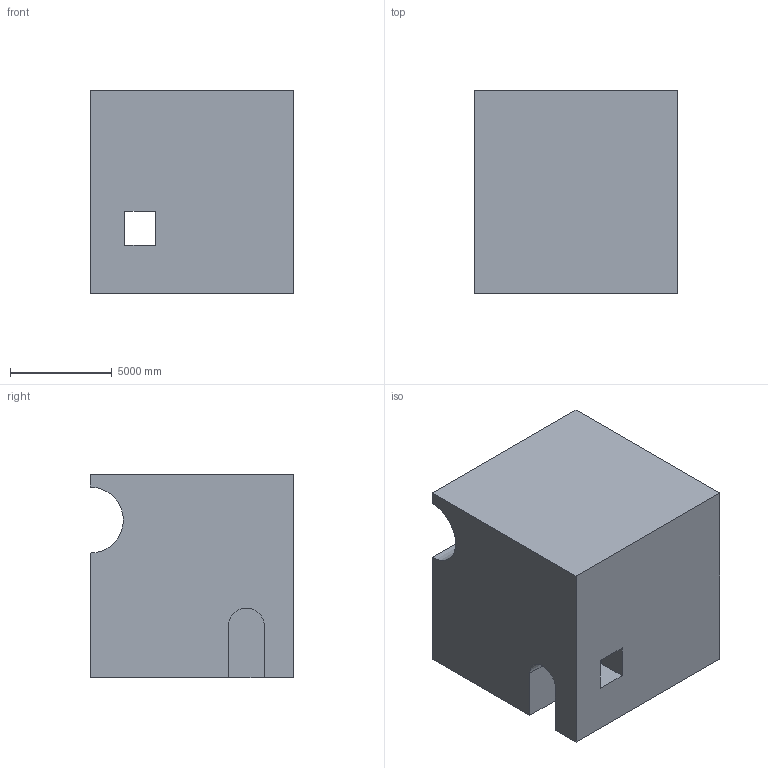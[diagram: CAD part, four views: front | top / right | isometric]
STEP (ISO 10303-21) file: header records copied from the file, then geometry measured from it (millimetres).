
FILE_DESCRIPTION (( 'STEP AP203' ), '1' );
FILE_NAME ('252.STEP', '2022-07-28T14:06:30', ( 'user' ), ( '' ), 'SwSTEP 2.0', 'SolidWorks 2021', '' );
FILE_SCHEMA (( 'CONFIG_CONTROL_DESIGN' ));
Length unit declared in the file: centimetre
Products named in the file (1): 252
Bounding box: 10000 x 10000 x 10000 mm (x, y, z)
Volume: 906040316715.9 mm3; surface area: 689958735.9 mm2
Topology: 1 solids, 1 shells, 20 faces, 60 edges, 40 vertices
Faces by surface type: plane 15, cylinder 5
Entity records: 759 total; most frequent: CARTESIAN_POINT 121, ORIENTED_EDGE 120, DIRECTION 112, EDGE_CURVE 60, VECTOR 50, LINE 50, VERTEX_POINT 40, AXIS2_PLACEMENT_3D 31
